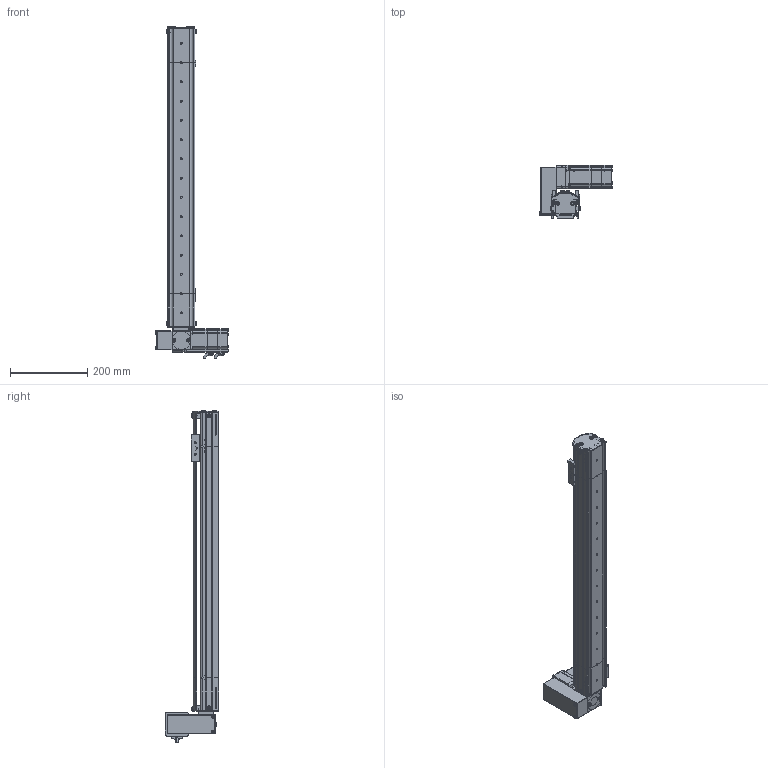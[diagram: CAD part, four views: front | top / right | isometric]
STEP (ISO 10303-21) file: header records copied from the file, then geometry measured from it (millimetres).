
FILE_DESCRIPTION (( 'STEP AP214' ), '1' );
FILE_NAME ('S07 TBN RT S600.STEP', '2010-06-29T11:32:09', ( 'Conseil Régional Haute-Normandie' ), ( 'Conseil Régional Haute-Normandie' ), 'SwSTEP 2.0', 'SolidWorks 2010', '' );
FILE_SCHEMA (( 'AUTOMOTIVE_DESIGN' ));
Length unit declared in the file: millimetre
Products named in the file (41): S07 TBN RT S600; Course C L600_Default; Corp S07 course 600_Default; Conecteur 60BLDC_Default; couvercle S07 course 600 ; Couroie  course 600_Default; Axe 60BLDC_Default; P4_Default; P3 90A_Default; P2 90A_Default; corp moteur TB(146)_Default; S07 RT(146)_Default; renvoi RT_Default; couvercle moteur S07 TB; plaque de bout RT_Default; P1_Default; GMB 60 90 310_Default; cache t皻e axe_Default; Plaque racord_Default; Couroie t皻e_Default; Pièce5^S07 RT(146); Poulie head_Default; vis M5 L5_Default; cache t皻e_Default; vis M5 L16_Default; Chariot; guide; CHariot_Default; couroie tail_Default; vis M5 L12_Default; Poulie_Default; plaque de bout_Default; corp tail TB_Default; S07 TB tail (78)_Default; T皻e de poulie_Default; couvercle tail TB; Cvis M5 L30_Default; VisM3_Default; Vis M5 L16-2_Default; Conecteur2 60BLDC_Default
Assembly tree (80 placements, depth 4):
  S07 TBN RT S600
    Course C L600_Default
      Corp S07 course 600_Default
      Couroie  course 600_Default
      couvercle S07 course 600 
    S07 RT(146)_Default
      Vis M5 L16-2_Default  x8
      plaque de bout RT_Default
      vis M5 L12_Default  x6
      cache t皻e_Default  x2
      cache t皻e axe_Default
      couvercle moteur S07 TB
      corp moteur TB(146)_Default
      Poulie head_Default
      vis M5 L5_Default  x6
      Cvis M5 L30_Default  x2
      Couroie t皻e_Default
      GMB 60 90 310_Default
        VisM3_Default  x12
        P4_Default
        Axe 60BLDC_Default
        P3 90A_Default
        Conecteur2 60BLDC_Default
        P2 90A_Default
        P1_Default
        Conecteur 60BLDC_Default
      renvoi RT_Default
      Plaque racord_Default
    CHariot_Default
      Chariot
      vis M5 L16_Default  x2
      guide
    S07 TB tail (78)_Default
      vis M5 L12_Default  x10
      couvercle tail TB
      couroie tail_Default
      corp tail TB_Default
      plaque de bout_Default
      Poulie_Default
        Poulie_Default
        T皻e de poulie_Default
  Pièce5^S07 RT(146)
Bounding box: 190.2 x 139.5 x 862 mm (x, y, z)
Volume: 2033936.5 mm3; surface area: 833888.2 mm2
Topology: 102 solids, 102 shells, 3910 faces, 9744 edges, 6293 vertices
Faces by surface type: plane 2226, cylinder 754, bspline 677, cone 125, torus 124, sphere 4
Entity records: 166869 total; most frequent: CARTESIAN_POINT 75141, ORIENTED_EDGE 15400, DIRECTION 12227, EDGE_CURVE 7700, VERTEX_POINT 5081, LINE 5037, VECTOR 5037, AXIS2_PLACEMENT_3D 3595
